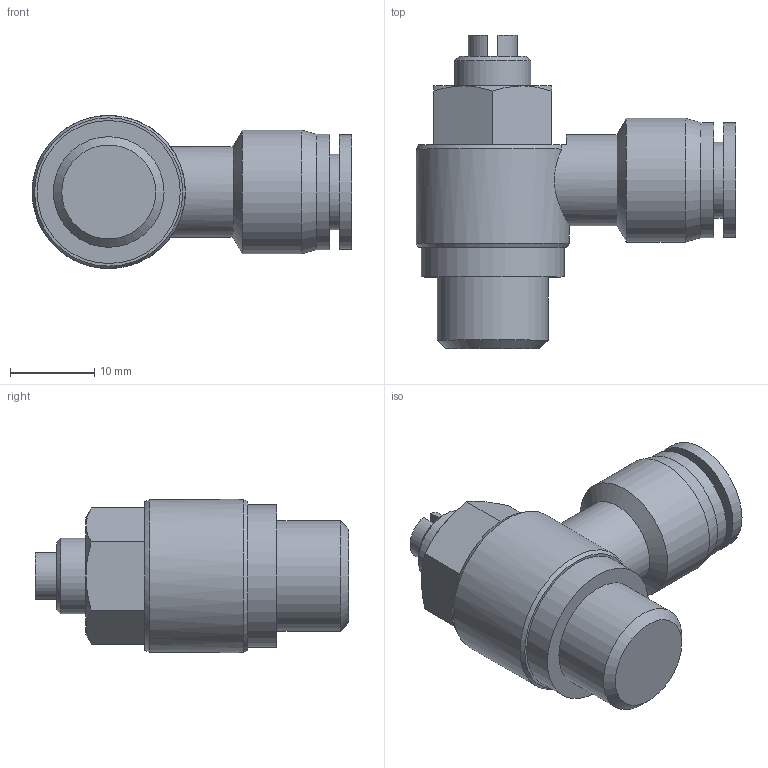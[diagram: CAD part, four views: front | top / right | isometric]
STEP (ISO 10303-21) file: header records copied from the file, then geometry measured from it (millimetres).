
FILE_DESCRIPTION((''),'2;1');
FILE_NAME('S:\UTecnico\ArchivioUT\Speciali Clienti\Speciali KONFIT\DISEGNI 3D\DP\DP 79\DP79C1408.stp','2012-11-28T13:48:26',('UT5'),(''),'Autodesk Inventor 2012','Autodesk Inventor 2012','');
FILE_SCHEMA(('AUTOMOTIVE_DESIGN { 1 0 10303 214 1 1 1 1 }'));
Length unit declared in the file: millimetre
Products named in the file (1): DP79C1408
Bounding box: 38 x 37.2 x 18.2 mm (x, y, z)
Volume: 7837.7 mm3; surface area: 3998.1 mm2
Topology: 1 solids, 1 shells, 45 faces, 93 edges, 58 vertices
Faces by surface type: plane 20, cone 13, cylinder 12
Full cylindrical faces by diameter (mm): 8 x1, 9 x2, 10.8 x1, 13.157 x1, 13.6 x1, 13.7 x1, 14.7 x1, 17 x1, 18.2 x1
Entity records: 1131 total; most frequent: CARTESIAN_POINT 227, DIRECTION 183, ORIENTED_EDGE 144, AXIS2_PLACEMENT_3D 80, EDGE_CURVE 72, EDGE_LOOP 69, VERTEX_POINT 53, FACE_OUTER_BOUND 45
